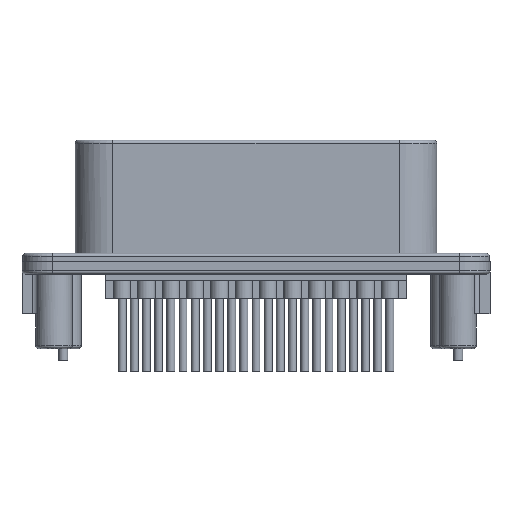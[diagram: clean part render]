
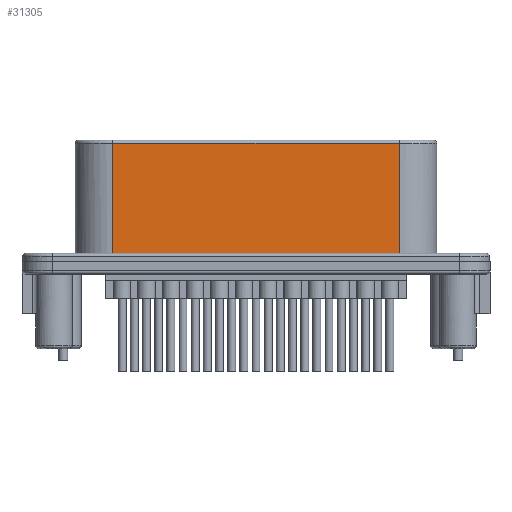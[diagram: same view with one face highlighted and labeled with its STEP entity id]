
A CAD part, front view. The second image highlights one B-rep face of the part: STEP entity #31305.
In plain terms, the highlighted planar face has unit normal (0, -1, 0).
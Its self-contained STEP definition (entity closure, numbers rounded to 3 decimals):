
#11242=DIRECTION('',(0.,0.,-1.));
#11243=VECTOR('',#11242,19.5);
#11244=CARTESIAN_POINT('',(23.5,-11.8,-0.5));
#11245=LINE('',#11244,#11243);
#11246=DIRECTION('',(1.,0.,0.));
#11247=VECTOR('',#11246,47.);
#11248=CARTESIAN_POINT('',(-23.5,-11.8,-0.5));
#11249=LINE('',#11248,#11247);
#11250=DIRECTION('',(1.,0.,0.));
#11251=VECTOR('',#11250,47.);
#11252=CARTESIAN_POINT('',(-23.5,-11.8,-20.));
#11253=LINE('',#11252,#11251);
#11254=DIRECTION('',(0.,0.,-1.));
#11255=VECTOR('',#11254,19.5);
#11256=CARTESIAN_POINT('',(-23.5,-11.8,-0.5));
#11257=LINE('',#11256,#11255);
#11968=CARTESIAN_POINT('',(-23.5,-11.8,-20.));
#11969=CARTESIAN_POINT('',(23.5,-11.8,-20.));
#11970=VERTEX_POINT('',#11968);
#11971=VERTEX_POINT('',#11969);
#13640=CARTESIAN_POINT('',(23.5,-11.8,-0.5));
#13641=VERTEX_POINT('',#13640);
#13644=CARTESIAN_POINT('',(-23.5,-11.8,-0.5));
#13645=VERTEX_POINT('',#13644);
#31293=CARTESIAN_POINT('',(-23.5,-11.8,0.));
#31294=DIRECTION('',(0.,-1.,0.));
#31295=DIRECTION('',(1.,0.,0.));
#31296=AXIS2_PLACEMENT_3D('',#31293,#31294,#31295);
#31297=PLANE('',#31296);
#31298=ORIENTED_EDGE('',*,*,#25476,.T.);
#31299=ORIENTED_EDGE('',*,*,#31288,.T.);
#31300=ORIENTED_EDGE('',*,*,#25816,.F.);
#31302=ORIENTED_EDGE('',*,*,#31301,.F.);
#31303=EDGE_LOOP('',(#31298,#31299,#31300,#31302));
#31304=FACE_OUTER_BOUND('',#31303,.F.);
#31305=ADVANCED_FACE('',(#31304),#31297,.T.);
#25476=EDGE_CURVE('',#13645,#13641,#11249,.T.);
#25816=EDGE_CURVE('',#11970,#11971,#11253,.T.);
#31288=EDGE_CURVE('',#13641,#11971,#11245,.T.);
#31301=EDGE_CURVE('',#13645,#11970,#11257,.T.);
